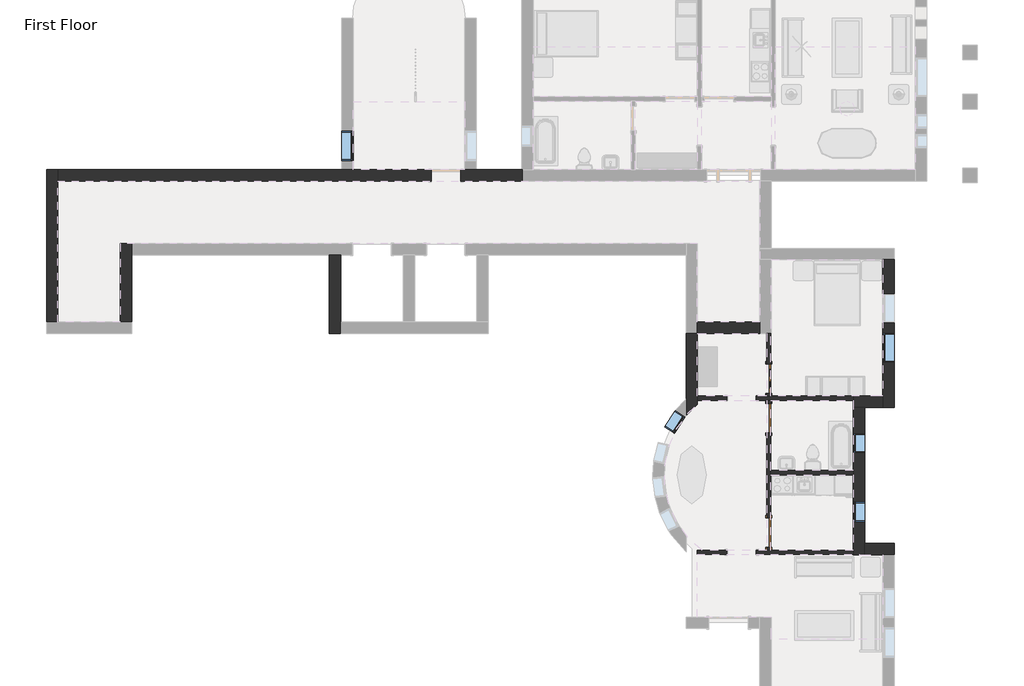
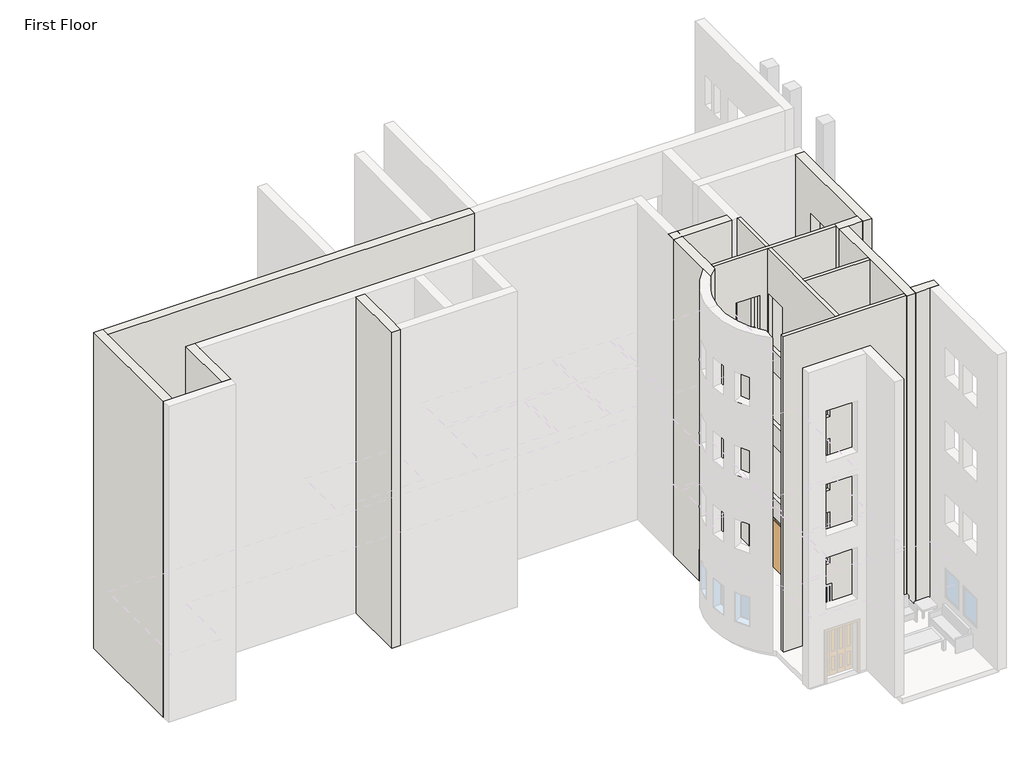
# One storey, part 2 of 8: 14 walls, 5 windows, 3 doors.
"""IFC4 building model written with IfcOpenShell, lengths in millimetres."""

from ifc_helpers import new_model, si_unit, frame, origin, origin_with_axes, place, context, project, spatial, polyline, circle_curve, outline, extrude, faceted_brep, transform, mapped, element, save
from ifc_brep_helpers import plane_surface, revolved_surface, advanced_brep
from components import m_single_decorative_2_0915_x_2134mm_cc9a65e4, m_single_flush_0915_x_2134mm_ab9b6334, m_single_flush_0915_x_2134mm_08e0827a, window_15c49d37, m_fixed_0610_x_1220mm_2b91b687, m_fixed_0915_x_1220mm_ca90dcf7

model = new_model("IFC4")

# Units and contexts
model_context = context("Model", 3, world=origin())
ifc_project = project(units=[si_unit("LENGTHUNIT", "METRE", prefix="MILLI")], contexts=[model_context])

# Site, building, storey
site = spatial("IfcSite", under=ifc_project)
building = spatial("IfcBuilding", under=site)
storey = spatial("IfcBuildingStorey", under=building, Name="First Floor", Elevation=0.0)

# Doors
placement = place(None, origin())
m_single_decorative_2_0915_x_2134mm_shape = m_single_decorative_2_0915_x_2134mm_cc9a65e4(model_context)
element("IfcDoor", 1, ObjectType="M_Single-Decorative 2 : 0915 x 2134mm", at=placement, inside=storey, context=model_context, shape_type="MappedRepresentation", body=[
    mapped(m_single_decorative_2_0915_x_2134mm_shape, transform((-3913.1714563, -1953.9183133, 0.0), x_axis=(0.0, -1.0, 0.0), y_axis=(1.0, 0.0, 0.0), z_axis=(0.0, 0.0, 1.0))),
])
m_single_flush_0915_x_2134mm_shape = m_single_flush_0915_x_2134mm_ab9b6334(model_context)
element("IfcDoor", 2, ObjectType="M_Single-Flush : 0915 x 2134mm", at=placement, inside=storey, context=model_context, shape_type="MappedRepresentation", body=[
    mapped(m_single_flush_0915_x_2134mm_shape, transform((-3913.1714563, -3173.9183133, 0.0), x_axis=(0.0, 1.0, 0.0), y_axis=(-1.0, 0.0, 0.0), z_axis=(0.0, 0.0, 1.0))),
])
m_single_flush_0915_x_2134mm_2_shape = m_single_flush_0915_x_2134mm_08e0827a(model_context)
element("IfcDoor", 3, ObjectType="M_Single-Flush : 0915 x 2134mm", at=placement, inside=storey, context=model_context, shape_type="MappedRepresentation", body=[
    mapped(m_single_flush_0915_x_2134mm_2_shape, transform((-3913.1714563, -6722.1683133, 0.0), x_axis=(0.0, -1.0, 0.0), y_axis=(1.0, 0.0, 0.0), z_axis=(0.0, 0.0, 1.0))),
])

# Walls
element("IfcWall", 4, ObjectType="Exterior - Brick on Mtl. Stud", at=placement, inside=storey, context=model_context, shape_type="Brep", body=[
    faceted_brep([(-17524.3839563, 1888.0191867, 0.0), (-17524.3839563, -550.3808133, 0.0), (-17524.3839563, -550.3808133, 13106.4), (-17524.3839563, 1888.0191867, 13106.4), (-17171.9589563, 1888.0191867, 0.0), (-17171.9589563, 1888.0191867, 13106.4), (-17171.9589563, -197.9558133, 13106.4), (-17171.9589563, -550.3808133, 13106.4), (-17171.9589563, -550.3808133, 0.0), (-17171.9589563, -197.9558133, 0.0)], [[[0, 1, 2, 3]], [[4, 5, 6, 7, 8, 9]], [[1, 0, 4, 9, 8]], [[3, 2, 7, 6, 5]], [[2, 1, 8, 7]], [[0, 3, 5, 4]]]),
])
element("IfcWall", 5, ObjectType="Exterior - Brick on Mtl. Stud", at=placement, inside=storey, context=model_context, shape_type="Brep", body=[
    faceted_brep([(-24001.3839563, 2240.4441867, 0.0), (-24001.3839563, -197.9558133, 0.0), (-24001.3839563, -197.9558133, 13106.4), (-24001.3839563, 2240.4441867, 13106.4), (-23648.9589563, 2240.4441867, 0.0), (-23648.9589563, 2240.4441867, 13106.4), (-23648.9589563, 1888.0191867, 13106.4), (-23648.9589563, -197.9558133, 13106.4), (-23648.9589563, -197.9558133, 0.0), (-23648.9589563, 1888.0191867, 0.0)], [[[0, 1, 2, 3]], [[4, 5, 6, 7, 8, 9]], [[1, 0, 4, 9, 8]], [[3, 2, 7, 6, 5]], [[0, 3, 5, 4]], [[2, 1, 8, 7]]]),
])
element("IfcWall", 6, ObjectType="Exterior - Brick on Mtl. Stud", at=placement, inside=storey, context=model_context, shape_type="Brep", body=[
    faceted_brep([(-25934.9589563, -197.9558133, 0.0), (-25934.9589563, 4174.0191867, 0.0), (-25934.9589563, 4526.4441867, 0.0), (-25934.9589563, 4526.4441867, 13106.4), (-25934.9589563, 4174.0191867, 13106.4), (-25934.9589563, -197.9558133, 13106.4), (-26287.3839563, -197.9558133, 0.0), (-26287.3839563, -197.9558133, 13106.4), (-26287.3839563, 4526.4441867, 13106.4), (-26287.3839563, 4526.4441867, 0.0)], [[[0, 1, 2, 3, 4, 5]], [[6, 7, 8, 9]], [[2, 1, 0, 6, 9]], [[5, 4, 3, 8, 7]], [[3, 2, 9, 8]], [[0, 5, 7, 6]]]),
])
element("IfcWall", 7, ObjectType="Exterior - Brick on Mtl. Stud", at=placement, inside=storey, context=model_context, shape_type="Brep", body=[
    faceted_brep([(-379.3839563, 1735.6191867, 0.0), (-379.3839563, -2483.9558133, 0.0), (-379.3839563, -2836.3808133, 0.0), (-379.3839563, -2836.3808133, 13107.0), (-379.3839563, -2483.9558133, 13107.0), (-379.3839563, 1735.6191867, 13107.0), (-379.3839563, -222.0683133, 915.0), (-379.3839563, 692.9316867, 915.0), (-379.3839563, 692.9316867, 2135.0), (-379.3839563, -222.0683133, 2135.0), (-379.3839563, -1441.2683133, 915.0), (-379.3839563, -526.2683133, 915.0), (-379.3839563, -526.2683133, 2135.0), (-379.3839563, -1441.2683133, 2135.0), (-379.3839563, -1441.2683133, 10059.0), (-379.3839563, -526.2683133, 10059.0), (-379.3839563, -526.2683133, 11279.0), (-379.3839563, -1441.2683133, 11279.0), (-379.3839563, -222.0683133, 10059.0), (-379.3839563, 692.9316867, 10059.0), (-379.3839563, 692.9316867, 11279.0), (-379.3839563, -222.0683133, 11279.0), (-379.3839563, -1441.2683133, 3963.0), (-379.3839563, -526.2683133, 3963.0), (-379.3839563, -526.2683133, 5183.0), (-379.3839563, -1441.2683133, 5183.0), (-379.3839563, -222.0683133, 3963.0), (-379.3839563, 692.9316867, 3963.0), (-379.3839563, 692.9316867, 5183.0), (-379.3839563, -222.0683133, 5183.0), (-379.3839563, -1441.2683133, 7011.0), (-379.3839563, -526.2683133, 7011.0), (-379.3839563, -526.2683133, 8231.0), (-379.3839563, -1441.2683133, 8231.0), (-379.3839563, -222.0683133, 7011.0), (-379.3839563, 692.9316867, 7011.0), (-379.3839563, 692.9316867, 8231.0), (-379.3839563, -222.0683133, 8231.0), (-26.9589563, 1735.6191867, 0.0), (-26.9589563, 1735.6191867, 13107.0), (-26.9589563, -2836.3808133, 13107.0), (-26.9589563, -2836.3808133, 0.0), (-26.9589563, -222.0683133, 915.0), (-26.9589563, -222.0683133, 2135.0), (-26.9589563, 692.9316867, 2135.0), (-26.9589563, 692.9316867, 915.0), (-26.9589563, -1441.2683133, 915.0), (-26.9589563, -1441.2683133, 2135.0), (-26.9589563, -526.2683133, 2135.0), (-26.9589563, -526.2683133, 915.0), (-26.9589563, -1441.2683133, 10059.0), (-26.9589563, -1441.2683133, 11279.0), (-26.9589563, -526.2683133, 11279.0), (-26.9589563, -526.2683133, 10059.0), (-26.9589563, -222.0683133, 10059.0), (-26.9589563, -222.0683133, 11279.0), (-26.9589563, 692.9316867, 11279.0), (-26.9589563, 692.9316867, 10059.0), (-26.9589563, -1441.2683133, 3963.0), (-26.9589563, -1441.2683133, 5183.0), (-26.9589563, -526.2683133, 5183.0), (-26.9589563, -526.2683133, 3963.0), (-26.9589563, -222.0683133, 3963.0), (-26.9589563, -222.0683133, 5183.0), (-26.9589563, 692.9316867, 5183.0), (-26.9589563, 692.9316867, 3963.0), (-26.9589563, -1441.2683133, 7011.0), (-26.9589563, -1441.2683133, 8231.0), (-26.9589563, -526.2683133, 8231.0), (-26.9589563, -526.2683133, 7011.0), (-26.9589563, -222.0683133, 7011.0), (-26.9589563, -222.0683133, 8231.0), (-26.9589563, 692.9316867, 8231.0), (-26.9589563, 692.9316867, 7011.0)], [[[0, 1, 2, 3, 4, 5], [6, 7, 8, 9], [10, 11, 12, 13], [14, 15, 16, 17], [18, 19, 20, 21], [22, 23, 24, 25], [26, 27, 28, 29], [30, 31, 32, 33], [34, 35, 36, 37]], [[38, 39, 40, 41], [42, 43, 44, 45], [46, 47, 48, 49], [50, 51, 52, 53], [54, 55, 56, 57], [58, 59, 60, 61], [62, 63, 64, 65], [66, 67, 68, 69], [70, 71, 72, 73]], [[2, 1, 0, 38, 41]], [[5, 4, 3, 40, 39]], [[0, 5, 39, 38]], [[3, 2, 41, 40]], [[43, 42, 6, 9]], [[44, 43, 9, 8]], [[45, 44, 8, 7]], [[42, 45, 7, 6]], [[47, 46, 10, 13]], [[48, 47, 13, 12]], [[49, 48, 12, 11]], [[46, 49, 11, 10]], [[51, 50, 14, 17]], [[52, 51, 17, 16]], [[53, 52, 16, 15]], [[50, 53, 15, 14]], [[55, 54, 18, 21]], [[56, 55, 21, 20]], [[57, 56, 20, 19]], [[54, 57, 19, 18]], [[59, 58, 22, 25]], [[60, 59, 25, 24]], [[61, 60, 24, 23]], [[58, 61, 23, 22]], [[63, 62, 26, 29]], [[64, 63, 29, 28]], [[65, 64, 28, 27]], [[62, 65, 27, 26]], [[67, 66, 30, 33]], [[68, 67, 33, 32]], [[69, 68, 32, 31]], [[66, 69, 31, 30]], [[71, 70, 34, 37]], [[72, 71, 37, 36]], [[73, 72, 36, 35]], [[70, 73, 35, 34]]]),
])
element("IfcWall", 8, ObjectType="Exterior - Brick on Mtl. Stud", at=placement, inside=storey, context=model_context, shape_type="Brep", body=[
    faceted_brep([(-379.3839563, -2483.9558133, 0.0), (-1293.7839563, -2483.9558133, 0.0), (-1293.7839563, -2483.9558133, 13107.0), (-379.3839563, -2483.9558133, 13107.0), (-379.3839563, -2836.3808133, 0.0), (-379.3839563, -2836.3808133, 13107.0), (-941.3589563, -2836.3808133, 13107.0), (-1293.7839563, -2836.3808133, 13107.0), (-1293.7839563, -2836.3808133, 0.0), (-941.3589563, -2836.3808133, 0.0), (-1293.7839563, -2627.9183133, 0.0), (-1293.7839563, -2492.4183133, 0.0), (-1293.7839563, -2492.4183133, 13107.0), (-1293.7839563, -2627.9183133, 13107.0)], [[[0, 1, 2, 3]], [[4, 5, 6, 7, 8, 9]], [[1, 0, 4, 9, 8, 10, 11]], [[3, 2, 12, 13, 7, 6, 5]], [[0, 3, 5, 4]], [[2, 1, 11, 10, 8, 7, 13, 12]]]),
])
element("IfcWall", 9, ObjectType="Exterior - Brick on Mtl. Stud", at=placement, inside=storey, context=model_context, shape_type="Brep", body=[
    faceted_brep([(-1293.7839563, -2836.3808133, 0.0), (-1293.7839563, -4793.7683133, 0.0), (-1293.7839563, -4929.2683133, 0.0), (-1293.7839563, -7264.4183133, 0.0), (-1293.7839563, -7399.9183133, 0.0), (-1293.7839563, -7408.3808133, 0.0), (-1293.7839563, -7408.3808133, 13107.0), (-1293.7839563, -7399.9183133, 13107.0), (-1293.7839563, -7264.4183133, 13107.0), (-1293.7839563, -4929.2683133, 13107.0), (-1293.7839563, -4793.7683133, 13107.0), (-1293.7839563, -2836.3808133, 13107.0), (-1293.7839563, -4252.1183133, 915.0), (-1293.7839563, -3642.1183133, 915.0), (-1293.7839563, -3642.1183133, 2135.0), (-1293.7839563, -4252.1183133, 2135.0), (-1293.7839563, -6385.7183133, 915.0), (-1293.7839563, -5775.7183133, 915.0), (-1293.7839563, -5775.7183133, 2135.0), (-1293.7839563, -6385.7183133, 2135.0), (-1293.7839563, -6385.7183133, 10059.0), (-1293.7839563, -5775.7183133, 10059.0), (-1293.7839563, -5775.7183133, 11279.0), (-1293.7839563, -6385.7183133, 11279.0), (-1293.7839563, -4252.1183133, 10059.0), (-1293.7839563, -3642.1183133, 10059.0), (-1293.7839563, -3642.1183133, 11279.0), (-1293.7839563, -4252.1183133, 11279.0), (-1293.7839563, -6385.7183133, 3963.0), (-1293.7839563, -5775.7183133, 3963.0), (-1293.7839563, -5775.7183133, 5183.0), (-1293.7839563, -6385.7183133, 5183.0), (-1293.7839563, -4252.1183133, 3963.0), (-1293.7839563, -3642.1183133, 3963.0), (-1293.7839563, -3642.1183133, 5183.0), (-1293.7839563, -4252.1183133, 5183.0), (-1293.7839563, -6385.7183133, 7011.0), (-1293.7839563, -5775.7183133, 7011.0), (-1293.7839563, -5775.7183133, 8231.0), (-1293.7839563, -6385.7183133, 8231.0), (-1293.7839563, -4252.1183133, 7011.0), (-1293.7839563, -3642.1183133, 7011.0), (-1293.7839563, -3642.1183133, 8231.0), (-1293.7839563, -4252.1183133, 8231.0), (-941.3589563, -2836.3808133, 0.0), (-941.3589563, -2836.3808133, 13107.0), (-941.3589563, -7055.9558133, 13107.0), (-941.3589563, -7408.3808133, 13107.0), (-941.3589563, -7408.3808133, 0.0), (-941.3589563, -7055.9558133, 0.0), (-941.3589563, -4252.1183133, 915.0), (-941.3589563, -4252.1183133, 2135.0), (-941.3589563, -3642.1183133, 2135.0), (-941.3589563, -3642.1183133, 915.0), (-941.3589563, -6385.7183133, 915.0), (-941.3589563, -6385.7183133, 2135.0), (-941.3589563, -5775.7183133, 2135.0), (-941.3589563, -5775.7183133, 915.0), (-941.3589563, -6385.7183133, 10059.0), (-941.3589563, -6385.7183133, 11279.0), (-941.3589563, -5775.7183133, 11279.0), (-941.3589563, -5775.7183133, 10059.0), (-941.3589563, -4252.1183133, 10059.0), (-941.3589563, -4252.1183133, 11279.0), (-941.3589563, -3642.1183133, 11279.0), (-941.3589563, -3642.1183133, 10059.0), (-941.3589563, -6385.7183133, 3963.0), (-941.3589563, -6385.7183133, 5183.0), (-941.3589563, -5775.7183133, 5183.0), (-941.3589563, -5775.7183133, 3963.0), (-941.3589563, -4252.1183133, 3963.0), (-941.3589563, -4252.1183133, 5183.0), (-941.3589563, -3642.1183133, 5183.0), (-941.3589563, -3642.1183133, 3963.0), (-941.3589563, -6385.7183133, 7011.0), (-941.3589563, -6385.7183133, 8231.0), (-941.3589563, -5775.7183133, 8231.0), (-941.3589563, -5775.7183133, 7011.0), (-941.3589563, -4252.1183133, 7011.0), (-941.3589563, -4252.1183133, 8231.0), (-941.3589563, -3642.1183133, 8231.0), (-941.3589563, -3642.1183133, 7011.0)], [[[0, 1, 2, 3, 4, 5, 6, 7, 8, 9, 10, 11], [12, 13, 14, 15], [16, 17, 18, 19], [20, 21, 22, 23], [24, 25, 26, 27], [28, 29, 30, 31], [32, 33, 34, 35], [36, 37, 38, 39], [40, 41, 42, 43]], [[44, 45, 46, 47, 48, 49], [50, 51, 52, 53], [54, 55, 56, 57], [58, 59, 60, 61], [62, 63, 64, 65], [66, 67, 68, 69], [70, 71, 72, 73], [74, 75, 76, 77], [78, 79, 80, 81]], [[5, 4, 3, 2, 1, 0, 44, 49, 48]], [[11, 10, 9, 8, 7, 6, 47, 46, 45]], [[0, 11, 45, 44]], [[6, 5, 48, 47]], [[51, 50, 12, 15]], [[52, 51, 15, 14]], [[53, 52, 14, 13]], [[50, 53, 13, 12]], [[55, 54, 16, 19]], [[56, 55, 19, 18]], [[57, 56, 18, 17]], [[54, 57, 17, 16]], [[59, 58, 20, 23]], [[60, 59, 23, 22]], [[61, 60, 22, 21]], [[58, 61, 21, 20]], [[63, 62, 24, 27]], [[64, 63, 27, 26]], [[65, 64, 26, 25]], [[62, 65, 25, 24]], [[67, 66, 28, 31]], [[68, 67, 31, 30]], [[69, 68, 30, 29]], [[66, 69, 29, 28]], [[71, 70, 32, 35]], [[72, 71, 35, 34]], [[73, 72, 34, 33]], [[70, 73, 33, 32]], [[75, 74, 36, 39]], [[76, 75, 39, 38]], [[77, 76, 38, 37]], [[74, 77, 37, 36]], [[79, 78, 40, 43]], [[80, 79, 43, 42]], [[81, 80, 42, 41]], [[78, 81, 41, 40]]]),
])
element("IfcWall", 10, ObjectType="Exterior - Brick on Mtl. Stud", at=placement, inside=storey, context=model_context, shape_type="Brep", body=[
    faceted_brep([(-941.3589563, -7408.3808133, 0.0), (-379.3839563, -7408.3808133, 0.0), (-214.2839563, -7408.3808133, 0.0), (-26.9589563, -7408.3808133, 0.0), (-26.9589563, -7408.3808133, 13107.0), (-379.3839563, -7408.3808133, 13107.0), (-941.3589563, -7408.3808133, 13107.0), (-941.3589563, -7055.9558133, 0.0), (-941.3589563, -7055.9558133, 13107.0), (-26.9589563, -7055.9558133, 13107.0), (-26.9589563, -7055.9558133, 0.0), (-214.2839563, -7055.9558133, 0.0), (-941.3589563, -7243.2808133, 0.0), (-26.9589563, -7243.2808133, 0.0), (-214.2839563, -7243.2808133, 0.0)], [[[0, 1, 2, 3, 4, 5, 6]], [[7, 8, 9, 10, 11]], [[6, 5, 4, 9, 8]], [[0, 6, 8, 7, 12]], [[4, 3, 13, 10, 9]], [[12, 7, 11, 14]], [[3, 2, 14, 13]], [[14, 11, 10, 13]], [[2, 1, 0, 12, 14]]]),
])
element("IfcWall", 11, ObjectType="Exterior - Brick on Mtl. Stud", at=placement, inside=storey, context=model_context, shape_type="Brep", body=[
    faceted_brep([(-4189.3839563, -197.9558133, 0.0), (-6122.9589563, -197.9558133, 0.0), (-6122.9589563, -197.9558133, 13106.4), (-6475.3839563, -197.9558133, 13106.4), (-6475.3839563, -197.9558133, 13107.0), (-4189.3839563, -197.9558133, 13107.0), (-4189.3839563, -550.3808133, 0.0), (-4189.3839563, -550.3808133, 13107.0), (-6122.9589563, -550.3808133, 13107.0), (-6475.3839563, -550.3808133, 13107.0), (-6475.3839563, -550.3808133, 13106.4), (-6122.9589563, -550.3808133, 13106.4), (-6122.9589563, -550.3808133, 0.0)], [[[0, 1, 2, 3, 4, 5]], [[6, 7, 8, 9, 10, 11, 12]], [[1, 0, 6, 12]], [[5, 4, 9, 8, 7]], [[10, 3, 2, 11]], [[2, 1, 12, 11]], [[4, 3, 10, 9]], [[0, 5, 7, 6]]]),
])
element("IfcWall", 12, ObjectType="Exterior - Brick on Mtl. Stud", at=placement, inside=storey, context=model_context, shape_type="AdvancedBrep", body=[
    advanced_brep(
    [(-6475.3839563, -550.3808133, 0.0), (-6475.3839563, -2581.9609252, 0.0), (-6475.3839563, -3091.149776, 0.0), (-6475.3839563, -3091.149776, 13107.0), (-6475.3839563, -2581.9609252, 13107.0), (-6475.3839563, -550.3808133, 13107.0), (-6475.3839563, -550.3808133, 13106.4), (-6122.9589563, -550.3808133, 0.0), (-6122.9589563, -550.3808133, 13106.4), (-6122.9589563, -550.3808133, 13107.0), (-6122.9589563, -2492.4183133, 13107.0), (-6122.9589563, -2627.9183133, 13107.0), (-6122.9589563, -2741.1478086, 13107.0), (-6122.9589563, -2741.1478086, 0.0), (-6122.9589563, -2627.9183133, 0.0), (-6122.9589563, -2492.4183133, 0.0)],
    [
        (0, 1),
        (1, 2),
        (2, 3),
        (3, 4),
        (4, 5),
        (5, 6),
        (6, 0),
        (7, 8),
        (8, 9),
        (9, 10),
        (10, 11),
        (11, 12),
        (12, 13),
        (13, 14),
        (14, 15),
        (15, 7),
        (0, 7),
        (13, 2, circle_curve(frame((-4283.1089573, -4946.1683133, 0.0), z_axis=(0.0, 0.0, 1.0), x_axis=(0.0, -1.0, 0.0)), 2871.7875)),
        (3, 12, circle_curve(frame((-4283.1089573, -4946.1683133, 13107.0), z_axis=(0.0, 0.0, -1.0), x_axis=(0.0, -1.0, 0.0)), 2871.7875)),
        (9, 5),
    ],
    [
        plane_surface(frame((-6475.3839563, -374.1683133, 0.0), z_axis=(-1.0, 0.0, 0.0), x_axis=(0.0, -1.0, 0.0))),
        plane_surface(frame((-6122.9589563, -374.1683133, 0.0), z_axis=(1.0, 0.0, 0.0), x_axis=(0.0, 1.0, 0.0))),
        plane_surface(frame((-6475.3839563, -374.1683133, 0.0), z_axis=(0.0, 0.0, -1.0), x_axis=(1.0, 0.0, 0.0))),
        plane_surface(frame((-6475.3839563, -2660.1683133, 13107.0), z_axis=(0.0, 0.0, 1.0), x_axis=(1.0, 0.0, 0.0))),
        revolved_surface(polyline([(-4283.1089573, -7817.955813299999, 0.0), (-4283.1089573, -7817.955813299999, 13107.0)]), (-4283.1089573, -4946.1683133, 0.0), (0.0, 0.0, -1.0)),
        plane_surface(frame((-4013.1714563, -550.3808133, 0.0), z_axis=(0.0, 1.0, 0.0), x_axis=(1.0, 0.0, 0.0))),
    ],
    [
        (0, [[1, 2, 3, 4, 5, 6, 7]]),
        (1, [[8, 9, 10, 11, 12, 13, 14, 15, 16]]),
        (2, [[-2, -1, 17, -16, -15, -14, 18]]),
        (3, [[-5, -4, 19, -12, -11, -10, 20]]),
        (4, [[-3, -18, -13, -19]]),
        (5, [[-7, -6, -20, -9, -8, -17]]),
    ],
),
])
element("IfcWall", 13, ObjectType="Exterior - Brick on Mtl. Stud", at=placement, inside=storey, context=model_context, shape_type="Brep", body=[
    faceted_brep([(-11545.8589563, 4526.4441867, 0.0), (-11545.8589563, 4526.4441867, 13106.4), (-11545.8589563, 4174.0191867, 13106.4), (-11545.8589563, 4174.0191867, 0.0), (-13461.9714563, 4174.0191867, 0.0), (-13461.9714563, 4526.4441867, 0.0), (-13333.3839563, 4526.4441867, 0.0), (-12980.9589563, 4526.4441867, 0.0), (-14376.3714563, 4174.0191867, 0.0), (-25934.9589563, 4174.0191867, 0.0), (-25934.9589563, 4526.4441867, 0.0), (-17143.3839563, 4526.4441867, 0.0), (-16790.9589563, 4526.4441867, 0.0), (-14376.3714563, 4526.4441867, 0.0), (-12980.9589563, 4526.4441867, 13106.4), (-13333.3839563, 4526.4441867, 13106.4), (-16790.9589563, 4526.4441867, 13106.4), (-17143.3839563, 4526.4441867, 13106.4), (-25934.9589563, 4526.4441867, 13106.4), (-25934.9589563, 4174.0191867, 13106.4), (-13461.9714563, 4526.4441867, 2133.6), (-14376.3714563, 4526.4441867, 2133.6), (-14376.3714563, 4526.4441867, 9144.0), (-13461.9714563, 4526.4441867, 9144.0), (-13461.9714563, 4526.4441867, 11277.6), (-14376.3714563, 4526.4441867, 11277.6), (-14376.3714563, 4526.4441867, 3048.0), (-13461.9714563, 4526.4441867, 3048.0), (-13461.9714563, 4526.4441867, 5181.6), (-14376.3714563, 4526.4441867, 5181.6), (-14376.3714563, 4526.4441867, 6096.0), (-13461.9714563, 4526.4441867, 6096.0), (-13461.9714563, 4526.4441867, 8229.6), (-14376.3714563, 4526.4441867, 8229.6), (-13461.9714563, 4174.0191867, 2133.6), (-14376.3714563, 4174.0191867, 2133.6), (-14376.3714563, 4174.0191867, 9144.0), (-14376.3714563, 4174.0191867, 11277.6), (-13461.9714563, 4174.0191867, 11277.6), (-13461.9714563, 4174.0191867, 9144.0), (-14376.3714563, 4174.0191867, 3048.0), (-14376.3714563, 4174.0191867, 5181.6), (-13461.9714563, 4174.0191867, 5181.6), (-13461.9714563, 4174.0191867, 3048.0), (-14376.3714563, 4174.0191867, 6096.0), (-14376.3714563, 4174.0191867, 8229.6), (-13461.9714563, 4174.0191867, 8229.6), (-13461.9714563, 4174.0191867, 6096.0)], [[[0, 1, 2, 3]], [[3, 4, 5, 6, 7, 0]], [[8, 9, 10, 11, 12, 13]], [[1, 14, 15, 16, 17, 18, 19, 2]], [[0, 7, 6, 5, 20, 21, 13, 12, 11, 10, 18, 17, 16, 15, 14, 1], [22, 23, 24, 25], [26, 27, 28, 29], [30, 31, 32, 33]], [[34, 4, 3, 2, 19, 9, 8, 35], [36, 37, 38, 39], [40, 41, 42, 43], [44, 45, 46, 47]], [[18, 10, 9, 19]], [[20, 5, 4, 34]], [[21, 20, 34, 35]], [[13, 21, 35, 8]], [[23, 22, 36, 39]], [[24, 23, 39, 38]], [[25, 24, 38, 37]], [[22, 25, 37, 36]], [[27, 26, 40, 43]], [[28, 27, 43, 42]], [[29, 28, 42, 41]], [[26, 29, 41, 40]], [[31, 30, 44, 47]], [[32, 31, 47, 46]], [[33, 32, 46, 45]], [[30, 33, 45, 44]]]),
])
element("IfcWall", 14, ObjectType="Interior - 135mm Partition (2-hr)", at=placement, inside=storey, context=model_context, shape_type="Brep", body=[
    faceted_brep([(-5208.8714563, -2492.4183133, 2134.0), (-5208.8714563, -2492.4183133, 0.0), (-6122.9589563, -2492.4183133, 0.0), (-6122.9589563, -2492.4183133, 13107.0), (-3980.9214563, -2492.4183133, 13107.0), (-3845.4214563, -2492.4183133, 13107.0), (-1293.7839563, -2492.4183133, 13107.0), (-1293.7839563, -2492.4183133, 0.0), (-3845.4214563, -2492.4183133, 0.0), (-3980.9214563, -2492.4183133, 0.0), (-4293.8714563, -2492.4183133, 0.0), (-4293.8714563, -2492.4183133, 2134.0), (-4293.8714563, -2492.4183133, 11278.0), (-5208.8714563, -2492.4183133, 11278.0), (-5208.8714563, -2492.4183133, 9144.0), (-4293.8714563, -2492.4183133, 9144.0), (-4293.8714563, -2492.4183133, 5182.0), (-5208.8714563, -2492.4183133, 5182.0), (-5208.8714563, -2492.4183133, 3048.0), (-4293.8714563, -2492.4183133, 3048.0), (-4293.8714563, -2492.4183133, 8230.0), (-5208.8714563, -2492.4183133, 8230.0), (-5208.8714563, -2492.4183133, 6096.0), (-4293.8714563, -2492.4183133, 6096.0), (-6122.9589563, -2627.9183133, 0.0), (-5208.8714563, -2627.9183133, 0.0), (-5208.8714563, -2627.9183133, 2134.0), (-4293.8714563, -2627.9183133, 2134.0), (-4293.8714563, -2627.9183133, 0.0), (-3980.9214563, -2627.9183133, 0.0), (-3845.4214563, -2627.9183133, 0.0), (-1293.7839563, -2627.9183133, 0.0), (-1293.7839563, -2627.9183133, 13107.0), (-3845.4214563, -2627.9183133, 13107.0), (-3980.9214563, -2627.9183133, 13107.0), (-6122.9589563, -2627.9183133, 13107.0), (-4293.8714563, -2627.9183133, 11278.0), (-4293.8714563, -2627.9183133, 9144.0), (-5208.8714563, -2627.9183133, 9144.0), (-5208.8714563, -2627.9183133, 11278.0), (-4293.8714563, -2627.9183133, 5182.0), (-4293.8714563, -2627.9183133, 3048.0), (-5208.8714563, -2627.9183133, 3048.0), (-5208.8714563, -2627.9183133, 5182.0), (-4293.8714563, -2627.9183133, 8230.0), (-4293.8714563, -2627.9183133, 6096.0), (-5208.8714563, -2627.9183133, 6096.0), (-5208.8714563, -2627.9183133, 8230.0)], [[[0, 1, 2, 3, 4, 5, 6, 7, 8, 9, 10, 11], [12, 13, 14, 15], [16, 17, 18, 19], [20, 21, 22, 23]], [[24, 25, 26, 27, 28, 29, 30, 31, 32, 33, 34, 35], [36, 37, 38, 39], [40, 41, 42, 43], [44, 45, 46, 47]], [[2, 1, 25, 24]], [[10, 9, 8, 7, 31, 30, 29, 28]], [[6, 5, 4, 3, 35, 34, 33, 32]], [[7, 6, 32, 31]], [[3, 2, 24, 35]], [[28, 27, 11, 10]], [[26, 25, 1, 0]], [[27, 26, 0, 11]], [[37, 36, 12, 15]], [[38, 37, 15, 14]], [[39, 38, 14, 13]], [[36, 39, 13, 12]], [[41, 40, 16, 19]], [[42, 41, 19, 18]], [[43, 42, 18, 17]], [[40, 43, 17, 16]], [[45, 44, 20, 23]], [[46, 45, 23, 22]], [[47, 46, 22, 21]], [[44, 47, 21, 20]]]),
])
element("IfcWall", 15, ObjectType="Interior - 135mm Partition (2-hr)", at=placement, inside=storey, context=model_context, shape_type="Brep", body=[
    faceted_brep([(-5208.8714563, -7264.4183133, 2134.0), (-5208.8714563, -7264.4183133, 0.0), (-6122.9589563, -7264.4183133, 0.0), (-6122.9589563, -7264.4183133, 13107.0), (-3980.9214563, -7264.4183133, 13107.0), (-3845.4214563, -7264.4183133, 13107.0), (-1293.7839563, -7264.4183133, 13107.0), (-1293.7839563, -7264.4183133, 0.0), (-3845.4214563, -7264.4183133, 0.0), (-3980.9214563, -7264.4183133, 0.0), (-4293.8714563, -7264.4183133, 0.0), (-4293.8714563, -7264.4183133, 2134.0), (-4293.8714563, -7264.4183133, 11278.0), (-5208.8714563, -7264.4183133, 11278.0), (-5208.8714563, -7264.4183133, 9144.0), (-4293.8714563, -7264.4183133, 9144.0), (-4293.8714563, -7264.4183133, 5182.0), (-5208.8714563, -7264.4183133, 5182.0), (-5208.8714563, -7264.4183133, 3048.0), (-4293.8714563, -7264.4183133, 3048.0), (-4293.8714563, -7264.4183133, 8230.0), (-5208.8714563, -7264.4183133, 8230.0), (-5208.8714563, -7264.4183133, 6096.0), (-4293.8714563, -7264.4183133, 6096.0), (-6122.9589563, -7399.9183133, 0.0), (-5208.8714563, -7399.9183133, 0.0), (-5208.8714563, -7399.9183133, 2134.0), (-4293.8714563, -7399.9183133, 2134.0), (-4293.8714563, -7399.9183133, 0.0), (-1293.7839563, -7399.9183133, 0.0), (-1293.7839563, -7399.9183133, 13107.0), (-6122.9589563, -7399.9183133, 13107.0), (-4293.8714563, -7399.9183133, 11278.0), (-4293.8714563, -7399.9183133, 9144.0), (-5208.8714563, -7399.9183133, 9144.0), (-5208.8714563, -7399.9183133, 11278.0), (-4293.8714563, -7399.9183133, 5182.0), (-4293.8714563, -7399.9183133, 3048.0), (-5208.8714563, -7399.9183133, 3048.0), (-5208.8714563, -7399.9183133, 5182.0), (-4293.8714563, -7399.9183133, 8230.0), (-4293.8714563, -7399.9183133, 6096.0), (-5208.8714563, -7399.9183133, 6096.0), (-5208.8714563, -7399.9183133, 8230.0)], [[[0, 1, 2, 3, 4, 5, 6, 7, 8, 9, 10, 11], [12, 13, 14, 15], [16, 17, 18, 19], [20, 21, 22, 23]], [[24, 25, 26, 27, 28, 29, 30, 31], [32, 33, 34, 35], [36, 37, 38, 39], [40, 41, 42, 43]], [[2, 1, 25, 24]], [[10, 9, 8, 7, 29, 28]], [[6, 5, 4, 3, 31, 30]], [[7, 6, 30, 29]], [[3, 2, 24, 31]], [[28, 27, 11, 10]], [[26, 25, 1, 0]], [[27, 26, 0, 11]], [[33, 32, 12, 15]], [[34, 33, 15, 14]], [[35, 34, 14, 13]], [[32, 35, 13, 12]], [[37, 36, 16, 19]], [[38, 37, 19, 18]], [[39, 38, 18, 17]], [[36, 39, 17, 16]], [[41, 40, 20, 23]], [[42, 41, 23, 22]], [[43, 42, 22, 21]], [[40, 43, 21, 20]]]),
])
element("IfcWall", 16, ObjectType="Interior - 135mm Partition (2-hr)", at=placement, inside=storey, context=model_context, shape_type="Brep", body=[
    faceted_brep([(-3980.9214563, -7264.4183133, 0.0), (-3980.9214563, -7264.4183133, 13107.0), (-3980.9214563, -2627.9183133, 13107.0), (-3980.9214563, -2627.9183133, 0.0), (-3980.9214563, -2716.4183133, 0.0), (-3980.9214563, -2716.4183133, 2134.0), (-3980.9214563, -3631.4183133, 2134.0), (-3980.9214563, -3631.4183133, 0.0), (-3980.9214563, -6264.6683133, 0.0), (-3980.9214563, -6264.6683133, 2134.0), (-3980.9214563, -7179.6683133, 2134.0), (-3980.9214563, -7179.6683133, 0.0), (-3980.9214563, -7179.6683133, 9144.0), (-3980.9214563, -6264.6683133, 9144.0), (-3980.9214563, -6264.6683133, 11278.0), (-3980.9214563, -7179.6683133, 11278.0), (-3980.9214563, -3631.4183133, 9144.0), (-3980.9214563, -2716.4183133, 9144.0), (-3980.9214563, -2716.4183133, 11278.0), (-3980.9214563, -3631.4183133, 11278.0), (-3980.9214563, -7179.6683133, 3048.0), (-3980.9214563, -6264.6683133, 3048.0), (-3980.9214563, -6264.6683133, 5182.0), (-3980.9214563, -7179.6683133, 5182.0), (-3980.9214563, -3631.4183133, 3048.0), (-3980.9214563, -2716.4183133, 3048.0), (-3980.9214563, -2716.4183133, 5182.0), (-3980.9214563, -3631.4183133, 5182.0), (-3980.9214563, -7179.6683133, 6096.0), (-3980.9214563, -6264.6683133, 6096.0), (-3980.9214563, -6264.6683133, 8230.0), (-3980.9214563, -7179.6683133, 8230.0), (-3980.9214563, -3631.4183133, 6096.0), (-3980.9214563, -2716.4183133, 6096.0), (-3980.9214563, -2716.4183133, 8230.0), (-3980.9214563, -3631.4183133, 8230.0), (-3845.4214563, -7264.4183133, 13107.0), (-3845.4214563, -7264.4183133, 0.0), (-3845.4214563, -7179.6683133, 0.0), (-3845.4214563, -7179.6683133, 2134.0), (-3845.4214563, -6264.6683133, 2134.0), (-3845.4214563, -6264.6683133, 0.0), (-3845.4214563, -4929.2683133, 0.0), (-3845.4214563, -4793.7683133, 0.0), (-3845.4214563, -3631.4183133, 0.0), (-3845.4214563, -3631.4183133, 2134.0), (-3845.4214563, -2716.4183133, 2134.0), (-3845.4214563, -2716.4183133, 0.0), (-3845.4214563, -2627.9183133, 0.0), (-3845.4214563, -2627.9183133, 13107.0), (-3845.4214563, -4793.7683133, 13107.0), (-3845.4214563, -4929.2683133, 13107.0), (-3845.4214563, -6264.6683133, 9144.0), (-3845.4214563, -7179.6683133, 9144.0), (-3845.4214563, -7179.6683133, 11278.0), (-3845.4214563, -6264.6683133, 11278.0), (-3845.4214563, -2716.4183133, 9144.0), (-3845.4214563, -3631.4183133, 9144.0), (-3845.4214563, -3631.4183133, 11278.0), (-3845.4214563, -2716.4183133, 11278.0), (-3845.4214563, -6264.6683133, 3048.0), (-3845.4214563, -7179.6683133, 3048.0), (-3845.4214563, -7179.6683133, 5182.0), (-3845.4214563, -6264.6683133, 5182.0), (-3845.4214563, -2716.4183133, 3048.0), (-3845.4214563, -3631.4183133, 3048.0), (-3845.4214563, -3631.4183133, 5182.0), (-3845.4214563, -2716.4183133, 5182.0), (-3845.4214563, -6264.6683133, 6096.0), (-3845.4214563, -7179.6683133, 6096.0), (-3845.4214563, -7179.6683133, 8230.0), (-3845.4214563, -6264.6683133, 8230.0), (-3845.4214563, -2716.4183133, 6096.0), (-3845.4214563, -3631.4183133, 6096.0), (-3845.4214563, -3631.4183133, 8230.0), (-3845.4214563, -2716.4183133, 8230.0)], [[[0, 1, 2, 3, 4, 5, 6, 7, 8, 9, 10, 11], [12, 13, 14, 15], [16, 17, 18, 19], [20, 21, 22, 23], [24, 25, 26, 27], [28, 29, 30, 31], [32, 33, 34, 35]], [[36, 37, 38, 39, 40, 41, 42, 43, 44, 45, 46, 47, 48, 49, 50, 51], [52, 53, 54, 55], [56, 57, 58, 59], [60, 61, 62, 63], [64, 65, 66, 67], [68, 69, 70, 71], [72, 73, 74, 75]], [[37, 0, 11, 38]], [[47, 4, 3, 48]], [[7, 44, 43, 42, 41, 8]], [[1, 36, 51, 50, 49, 2]], [[1, 0, 37, 36]], [[3, 2, 49, 48]], [[5, 4, 47, 46]], [[6, 5, 46, 45]], [[7, 6, 45, 44]], [[39, 38, 11, 10]], [[40, 39, 10, 9]], [[41, 40, 9, 8]], [[53, 52, 13, 12]], [[54, 53, 12, 15]], [[55, 54, 15, 14]], [[52, 55, 14, 13]], [[17, 16, 57, 56]], [[18, 17, 56, 59]], [[19, 18, 59, 58]], [[16, 19, 58, 57]], [[61, 60, 21, 20]], [[62, 61, 20, 23]], [[63, 62, 23, 22]], [[60, 63, 22, 21]], [[25, 24, 65, 64]], [[26, 25, 64, 67]], [[27, 26, 67, 66]], [[24, 27, 66, 65]], [[69, 68, 29, 28]], [[70, 69, 28, 31]], [[71, 70, 31, 30]], [[68, 71, 30, 29]], [[33, 32, 73, 72]], [[34, 33, 72, 75]], [[35, 34, 75, 74]], [[32, 35, 74, 73]]]),
    faceted_brep([(-3980.9214563, -2411.4183133, 2134.0), (-3980.9214563, -2411.4183133, 0.0), (-3980.9214563, -2492.4183133, 0.0), (-3980.9214563, -2492.4183133, 13107.0), (-3980.9214563, -550.3808133, 13107.0), (-3980.9214563, -550.3808133, 0.0), (-3980.9214563, -1496.4183133, 0.0), (-3980.9214563, -1496.4183133, 2134.0), (-3980.9214563, -2411.4183133, 9144.0), (-3980.9214563, -1496.4183133, 9144.0), (-3980.9214563, -1496.4183133, 11278.0), (-3980.9214563, -2411.4183133, 11278.0), (-3980.9214563, -2411.4183133, 3048.0), (-3980.9214563, -1496.4183133, 3048.0), (-3980.9214563, -1496.4183133, 5182.0), (-3980.9214563, -2411.4183133, 5182.0), (-3980.9214563, -2411.4183133, 6096.0), (-3980.9214563, -1496.4183133, 6096.0), (-3980.9214563, -1496.4183133, 8230.0), (-3980.9214563, -2411.4183133, 8230.0), (-3845.4214563, -2411.4183133, 0.0), (-3845.4214563, -2411.4183133, 2134.0), (-3845.4214563, -1496.4183133, 2134.0), (-3845.4214563, -1496.4183133, 0.0), (-3845.4214563, -550.3808133, 0.0), (-3845.4214563, -550.3808133, 13107.0), (-3845.4214563, -2492.4183133, 13107.0), (-3845.4214563, -2492.4183133, 0.0), (-3845.4214563, -1496.4183133, 9144.0), (-3845.4214563, -2411.4183133, 9144.0), (-3845.4214563, -2411.4183133, 11278.0), (-3845.4214563, -1496.4183133, 11278.0), (-3845.4214563, -1496.4183133, 3048.0), (-3845.4214563, -2411.4183133, 3048.0), (-3845.4214563, -2411.4183133, 5182.0), (-3845.4214563, -1496.4183133, 5182.0), (-3845.4214563, -1496.4183133, 6096.0), (-3845.4214563, -2411.4183133, 6096.0), (-3845.4214563, -2411.4183133, 8230.0), (-3845.4214563, -1496.4183133, 8230.0)], [[[0, 1, 2, 3, 4, 5, 6, 7], [8, 9, 10, 11], [12, 13, 14, 15], [16, 17, 18, 19]], [[20, 21, 22, 23, 24, 25, 26, 27], [28, 29, 30, 31], [32, 33, 34, 35], [36, 37, 38, 39]], [[1, 20, 27, 2]], [[6, 5, 24, 23]], [[25, 4, 3, 26]], [[3, 2, 27, 26]], [[0, 21, 20, 1]], [[21, 0, 7, 22]], [[22, 7, 6, 23]], [[29, 28, 9, 8]], [[30, 29, 8, 11]], [[31, 30, 11, 10]], [[28, 31, 10, 9]], [[33, 32, 13, 12]], [[34, 33, 12, 15]], [[35, 34, 15, 14]], [[32, 35, 14, 13]], [[37, 36, 17, 16]], [[38, 37, 16, 19]], [[39, 38, 19, 18]], [[36, 39, 18, 17]], [[24, 5, 4, 25]]]),
])
element("IfcWall", 17, ObjectType="Interior - 135mm Partition (2-hr)", at=placement, inside=storey, context=model_context, shape_type="SweptSolid", body=[
    extrude(outline(polyline([(-3845.4214563, -4793.7683133), (-1293.7839563, -4793.7683133), (-1293.7839563, -4929.2683133), (-3845.4214563, -4929.2683133), (-3845.4214563, -4793.7683133)])), origin_with_axes(), (0.0, 0.0, 1.0), 13107.0),
])

# Windows
window_shape = window_15c49d37(model_context)
element("IfcWindow", 18, ObjectType="Fixed : 36\" x 48\"", at=placement, inside=storey, context=model_context, shape_type="MappedRepresentation", body=[
    mapped(window_shape, transform((-16967.1714563, 5226.5316867, 0.0), x_axis=(0.0, -1.0, 0.0), y_axis=(1.0, 0.0, 0.0), z_axis=(0.0, 0.0, 1.0))),
])
m_fixed_0610_x_1220mm_shape = m_fixed_0610_x_1220mm_2b91b687(model_context)
element("IfcWindow", 19, ObjectType="M_Fixed : 0610 x 1220mm", at=placement, inside=storey, context=model_context, shape_type="MappedRepresentation", body=[
    mapped(m_fixed_0610_x_1220mm_shape, transform((-1104.5714563, -3947.1183133, 0.0), x_axis=(0.0, 1.0, 0.0), y_axis=(-1.0, 0.0, 0.0), z_axis=(0.0, 0.0, 1.0))),
])
element("IfcWindow", 20, ObjectType="M_Fixed : 0610 x 1220mm", at=placement, inside=storey, context=model_context, shape_type="MappedRepresentation", body=[
    mapped(m_fixed_0610_x_1220mm_shape, transform((-1104.5714563, -6080.7183133, 0.0), x_axis=(0.0, 1.0, 0.0), y_axis=(-1.0, 0.0, 0.0), z_axis=(0.0, 0.0, 1.0))),
])
element("IfcWindow", 21, ObjectType="M_Fixed : 0610 x 1220mm", at=placement, inside=storey, context=model_context, shape_type="MappedRepresentation", body=[
    mapped(m_fixed_0610_x_1220mm_shape, transform((-6832.8777071, -3282.0683061, 0.0), x_axis=(-0.5465459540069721, -0.8374291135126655, 0.0), y_axis=(0.8374291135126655, -0.5465459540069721, 0.0), z_axis=(0.0, 0.0, 1.0))),
])
m_fixed_0915_x_1220mm_shape = m_fixed_0915_x_1220mm_ca90dcf7(model_context)
element("IfcWindow", 22, ObjectType="M_Fixed : 0915 x 1220mm", at=placement, inside=storey, context=model_context, shape_type="MappedRepresentation", body=[
    mapped(m_fixed_0915_x_1220mm_shape, transform((-190.1714563, -983.7683133, 0.0), x_axis=(0.0, 1.0, 0.0), y_axis=(-1.0, 0.0, 0.0), z_axis=(0.0, 0.0, 1.0))),
])

save(model, "model.ifc")
